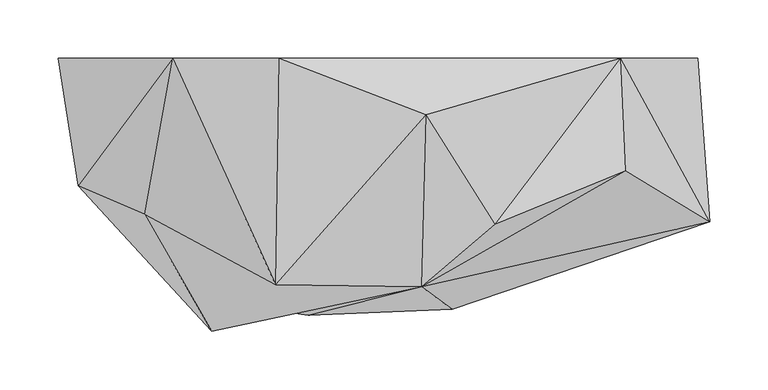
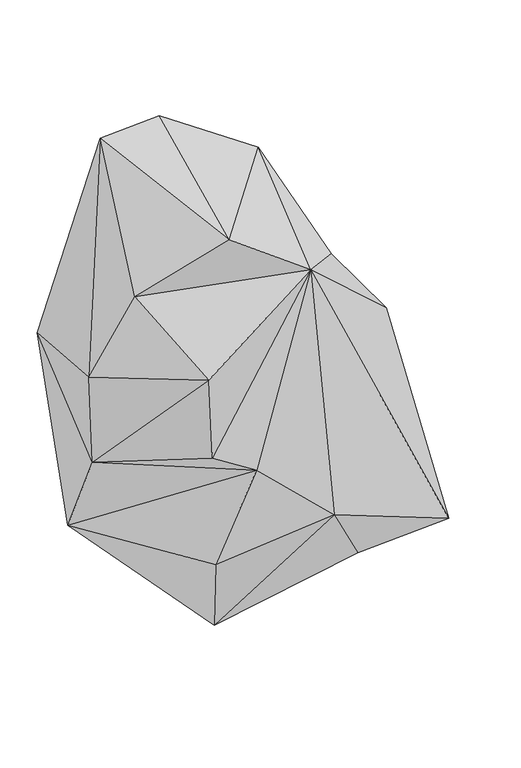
"""IFC4 building model written with IfcOpenShell, lengths in millimetres: geographic element geometry, Enscape AssetDefinition - Creeper Plant 028 Ivy : Enscape AssetDefinition - Creeper Plant 028 Ivy."""

from ifc_helpers import new_model, si_unit, origin, place, context, project, spatial, triangles, source, transform, mapped, element, save


def geographic_element_6e40b6ea(model_context):
    return source(origin(), model_context, "Body", "Tessellation", [
        triangles([(200.4607837, -18.3974712, 30.1532558), (-184.4531126, -18.397536, 398.7745328), (-92.9125246, -18.397536, 403.3884227), (33.1958094, -66.9033745, 337.304702), (-95.8357564, -212.7940789, 318.6320409), (-282.8925254, -18.397486, 113.0554266), (-208.7019231, -152.4408405, 227.4273608), (-265.6677956, -128.0853777, 100.1050543), (92.500731, -161.1161286, 197.9346661), (204.8548651, -115.0153633, 41.7014335), (276.8823727, -158.7317538, -302.736663), (29.5642338, -214.8722224, 226.4334171), (55.4433364, -233.815343, -174.0710064), (266.393369, -18.397402, -362.2381728), (152.652183, -127.829325, -335.5064106), (-61.0788209, -111.1911872, -389.5466077), (-68.2827825, -239.1580401, -54.6352598), (-119.4441082, -216.585072, -206.1528418), (-51.3433504, -18.397402, -399.8975747), (-261.7647635, -130.5935821, -39.3135705), (-251.5121916, -46.714109, -197.3444042), (-132.3811729, -229.7210617, -18.3996945), (-150.7745723, -252.8790776, 130.8183504)], [[8, 23, 7], [23, 12, 7], [12, 23, 22], [23, 8, 20], [6, 20, 8], [23, 20, 22], [17, 22, 20], [12, 22, 17], [17, 20, 21], [6, 21, 20], [18, 17, 21], [6, 1, 21], [1, 19, 21], [1, 14, 19], [16, 18, 21], [19, 16, 21], [16, 13, 18], [13, 12, 17], [17, 18, 13], [19, 15, 16], [14, 15, 19], [15, 13, 16], [11, 14, 1], [15, 14, 11], [11, 12, 13], [15, 11, 13], [11, 1, 10], [10, 12, 11], [9, 12, 10], [1, 9, 10], [9, 1, 4], [12, 9, 4], [7, 12, 5], [4, 5, 12], [8, 2, 6], [5, 2, 7], [6, 2, 1], [2, 8, 7], [1, 3, 4], [4, 3, 5], [3, 2, 5], [3, 1, 2]]),
    ])


if __name__ == "__main__":
    model = new_model("IFC4")
    model_context = context("Model", 3, world=origin())
    ifc_project = project(units=[si_unit("LENGTHUNIT", "METRE", prefix="MILLI")], contexts=[model_context])
    site = spatial("IfcSite", under=ifc_project)
    building = spatial("IfcBuilding", under=site)
    placement = place(None, origin())
    geographic_element_shape = geographic_element_6e40b6ea(model_context)
    element("IfcGeographicElement", 1, ObjectType="Enscape AssetDefinition - Creeper Plant 028 Ivy : Enscape AssetDefinition - Creeper Plant 028 Ivy", at=placement, inside=building, context=model_context, shape_type="MappedRepresentation", body=[
        mapped(geographic_element_shape, transform((0.0, 0.0, 0.0), x_axis=(1.0, 0.0, 0.0), y_axis=(0.0, 1.0, 0.0), z_axis=(0.0, 0.0, 1.0))),
    ])
    save(model, "model.ifc")
